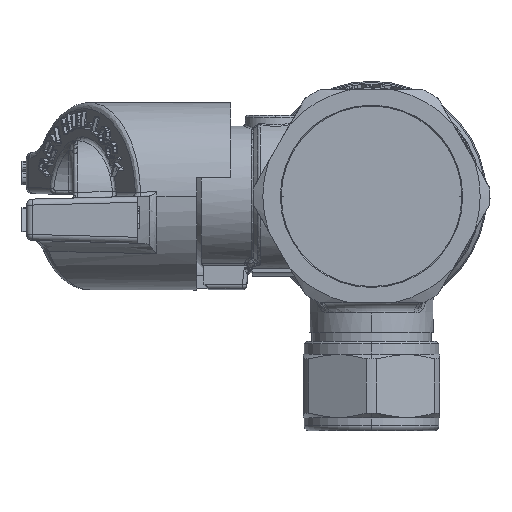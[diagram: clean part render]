
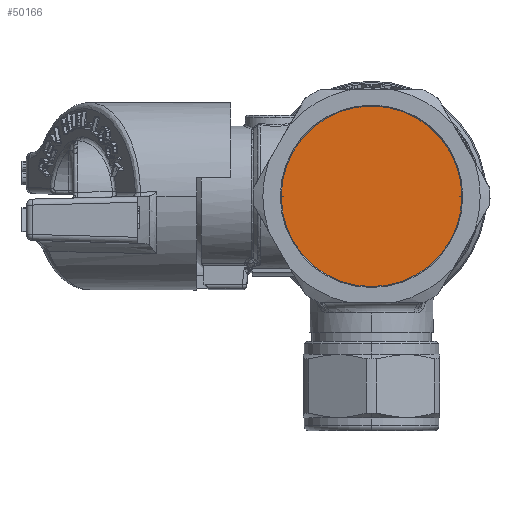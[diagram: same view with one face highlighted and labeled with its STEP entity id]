
A CAD part, left-side view. The second image highlights one B-rep face of the part: STEP entity #50166.
In plain terms, the highlighted planar face has unit normal (-1, 0, 0).
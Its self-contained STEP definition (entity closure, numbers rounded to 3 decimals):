
#50109=CARTESIAN_POINT('',(-30.393,0.,0.));
#50110=DIRECTION('',(-1.,0.,0.));
#50111=DIRECTION('',(0.,-1.,0.));
#50112=AXIS2_PLACEMENT_3D('',#50109,#50110,#50111);
#50118=CARTESIAN_POINT('',(-30.393,0.,0.));
#50119=DIRECTION('',(1.,0.,0.));
#50120=DIRECTION('',(0.,-1.,0.));
#50121=AXIS2_PLACEMENT_3D('',#50118,#50119,#50120);
#50143=CARTESIAN_POINT('',(-30.393,-10.593,0.));
#50145=VERTEX_POINT('',#50143);
#50147=CARTESIAN_POINT('',(-30.393,10.593,0.));
#50149=VERTEX_POINT('',#50147);
#50155=CARTESIAN_POINT('',(-30.393,0.,0.));
#50156=DIRECTION('',(1.,0.,0.));
#50157=DIRECTION('',(0.,-1.,0.));
#50158=AXIS2_PLACEMENT_3D('',#50155,#50156,#50157);
#50159=PLANE('',#50158);
#50161=ORIENTED_EDGE('',*,*,#50160,.F.);
#50163=ORIENTED_EDGE('',*,*,#50162,.T.);
#50164=EDGE_LOOP('',(#50161,#50163));
#50165=FACE_OUTER_BOUND('',#50164,.F.);
#50166=ADVANCED_FACE('',(#50165),#50159,.F.);
#50113=CIRCLE('',#50112,10.593);
#50122=CIRCLE('',#50121,10.593);
#50160=EDGE_CURVE('',#50145,#50149,#50113,.T.);
#50162=EDGE_CURVE('',#50145,#50149,#50122,.T.);
